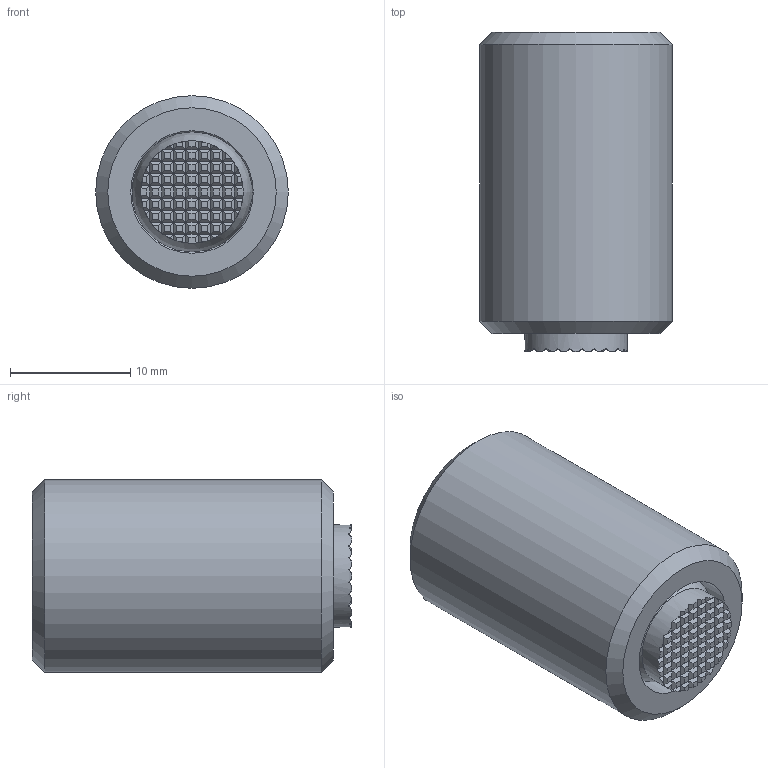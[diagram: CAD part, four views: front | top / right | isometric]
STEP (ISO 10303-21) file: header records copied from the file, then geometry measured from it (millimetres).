
FILE_DESCRIPTION( ( 'STEP AP203' ), '1' );
FILE_NAME( 'C:/Temp/Ganter_Step_05_03_2020/data/3_2/gn_709_8/gn_709_8r/Clamping pad GN 709.8-M16-25-R (0).stp', '2020-03-13T05:38:03', ( 'License CC BY-ND 4.0' ), ( 'CADENAS' ), ' ', 'PARTsolutions', ' ' );
FILE_SCHEMA( ( 'CONFIG_CONTROL_DESIGN' ) );
Length unit declared in the file: millimetre
Products named in the file (3): Clamping pad GN 709.8-M16-25-R (0); _Pendelelement GN 709.8-M16-25-R-1; _Pendelelement GN 709.8-M16-25-R-2
Assembly tree (2 placements, depth 2):
  Clamping pad GN 709.8-M16-25-R (0)
    _Pendelelement GN 709.8-M16-25-R-1
    _Pendelelement GN 709.8-M16-25-R-2
Bounding box: 16 x 26.5 x 16 mm (x, y, z)
Volume: 4557.5 mm3; surface area: 2361.7 mm2
Topology: 2 solids, 2 shells, 326 faces, 699 edges, 378 vertices
Faces by surface type: plane 319, cone 3, cylinder 3, sphere 1
Full cylindrical faces by diameter (mm): 8.5 x1, 10.18 x1, 16 x1
Entity records: 8426 total; most frequent: DIRECTION 1444, CARTESIAN_POINT 1396, ORIENTED_EDGE 1380, EDGE_CURVE 690, LINE 594, VECTOR 594, AXIS2_PLACEMENT_3D 425, VERTEX_POINT 377
